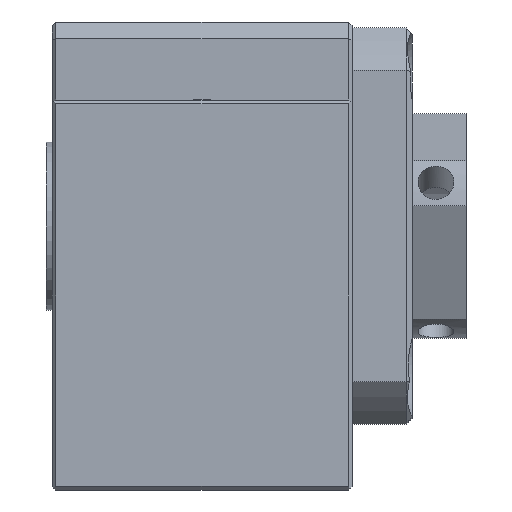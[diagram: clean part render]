
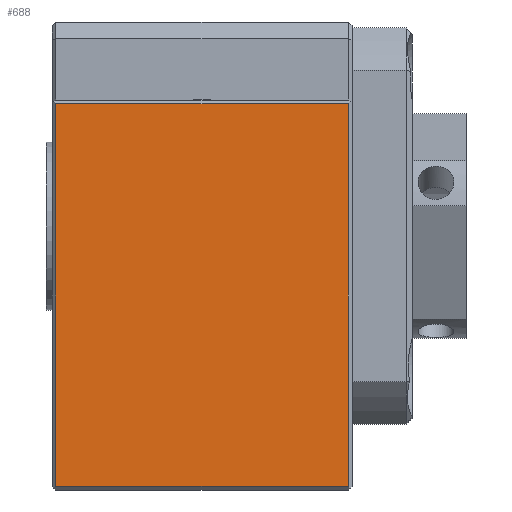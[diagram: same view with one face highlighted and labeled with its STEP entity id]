
A CAD part, front view. The second image highlights one B-rep face of the part: STEP entity #688.
In plain terms, the highlighted planar face has unit normal (0, -1, 0).
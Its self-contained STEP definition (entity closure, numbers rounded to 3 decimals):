
#151=FACE_OUTER_BOUND('',#1178,.T.);
#238=LINE('',#4582,#368);
#239=LINE('',#4585,#369);
#240=LINE('',#4587,#370);
#241=LINE('',#4589,#371);
#368=VECTOR('',#3064,1.);
#369=VECTOR('',#3065,1.);
#370=VECTOR('',#3066,1.);
#371=VECTOR('',#3067,1.);
#569=PLANE('',#2602);
#688=ADVANCED_FACE('',(#151),#569,.T.);
#1178=EDGE_LOOP('',(#1582,#1583,#1584,#1585));
#1582=ORIENTED_EDGE('',*,*,#2223,.T.);
#1583=ORIENTED_EDGE('',*,*,#2224,.T.);
#1584=ORIENTED_EDGE('',*,*,#2225,.T.);
#1585=ORIENTED_EDGE('',*,*,#2226,.T.);
#1983=VERTEX_POINT('',#4583);
#1984=VERTEX_POINT('',#4584);
#1985=VERTEX_POINT('',#4586);
#1986=VERTEX_POINT('',#4588);
#2223=EDGE_CURVE('',#1983,#1984,#238,.T.);
#2224=EDGE_CURVE('',#1984,#1985,#239,.T.);
#2225=EDGE_CURVE('',#1985,#1986,#240,.T.);
#2226=EDGE_CURVE('',#1986,#1983,#241,.T.);
#2602=AXIS2_PLACEMENT_3D('',#4590,#3068,#3069);
#3064=DIRECTION('',(0.,0.,-1.));
#3065=DIRECTION('',(1.,0.,0.));
#3066=DIRECTION('',(0.,0.,1.));
#3067=DIRECTION('',(-1.,0.,0.));
#3068=DIRECTION('',(0.,-1.,0.));
#3069=DIRECTION('',(0.,0.,1.));
#4582=CARTESIAN_POINT('',(-12.2,-30.,0.));
#4583=CARTESIAN_POINT('',(-12.2,-30.,32.2));
#4584=CARTESIAN_POINT('',(-12.2,-30.,0.3));
#4585=CARTESIAN_POINT('',(0.,-30.,0.3));
#4586=CARTESIAN_POINT('',(12.2,-30.,0.3));
#4587=CARTESIAN_POINT('',(12.2,-30.,32.5));
#4588=CARTESIAN_POINT('',(12.2,-30.,32.2));
#4589=CARTESIAN_POINT('',(0.,-30.,32.2));
#4590=CARTESIAN_POINT('',(0.,-30.,32.5));
